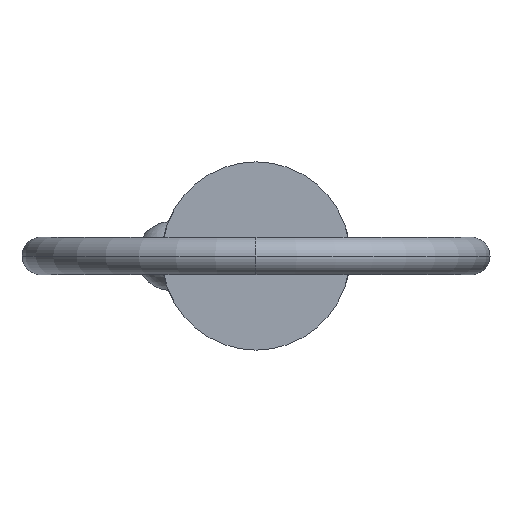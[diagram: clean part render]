
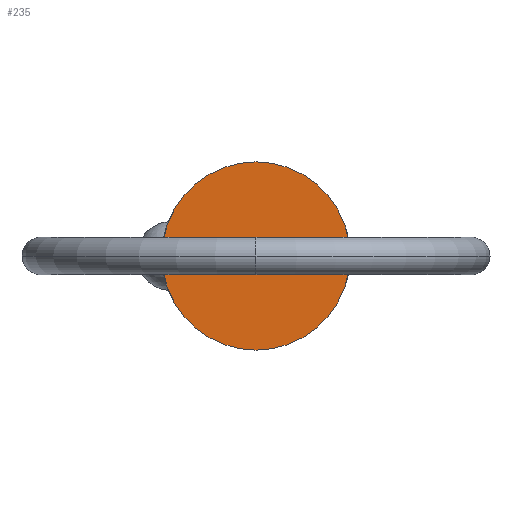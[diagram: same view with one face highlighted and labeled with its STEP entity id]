
A CAD part, left-side view. The second image highlights one B-rep face of the part: STEP entity #235.
In plain terms, the highlighted planar face has unit normal (-1, 0, 0).
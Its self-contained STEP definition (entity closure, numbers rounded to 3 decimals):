
#23 = ORIENTED_EDGE ( 'NONE', *, *, #742, .F. ) ;
#24 = DIRECTION ( 'NONE',  ( 0., 0., -1. ) ) ;
#37 = ORIENTED_EDGE ( 'NONE', *, *, #498, .F. ) ;
#43 = AXIS2_PLACEMENT_3D ( 'NONE', #521, #102, #601 ) ;
#53 = CARTESIAN_POINT ( 'NONE',  ( 0., 0., -5.555 ) ) ;
#83 = DIRECTION ( 'NONE',  ( 1., 0., 0. ) ) ;
#102 = DIRECTION ( 'NONE',  ( -1., 0., 0. ) ) ;
#208 = VERTEX_POINT ( 'NONE', #53 ) ;
#216 = CARTESIAN_POINT ( 'NONE',  ( 0., 0., 0. ) ) ;
#235 = ADVANCED_FACE ( 'NONE', ( #260 ), #671, .T. ) ;
#245 = EDGE_LOOP ( 'NONE', ( #23, #37 ) ) ;
#260 = FACE_OUTER_BOUND ( 'NONE', #245, .T. ) ;
#268 = AXIS2_PLACEMENT_3D ( 'NONE', #558, #83, #24 ) ;
#421 = DIRECTION ( 'NONE',  ( 0., 0., -1. ) ) ;
#498 = EDGE_CURVE ( 'NONE', #848, #208, #578, .T. ) ;
#521 = CARTESIAN_POINT ( 'NONE',  ( 0., 0., 0. ) ) ;
#558 = CARTESIAN_POINT ( 'NONE',  ( 0., 0., 0. ) ) ;
#578 = CIRCLE ( 'NONE', #872, 5.555 ) ;
#601 = DIRECTION ( 'NONE',  ( 0., 0., 1. ) ) ;
#650 = CIRCLE ( 'NONE', #268, 5.555 ) ;
#671 = PLANE ( 'NONE',  #43 ) ;
#679 = DIRECTION ( 'NONE',  ( 1., 0., 0. ) ) ;
#742 = EDGE_CURVE ( 'NONE', #208, #848, #650, .T. ) ;
#818 = CARTESIAN_POINT ( 'NONE',  ( 0., 0., 5.555 ) ) ;
#848 = VERTEX_POINT ( 'NONE', #818 ) ;
#872 = AXIS2_PLACEMENT_3D ( 'NONE', #216, #679, #421 ) ;
